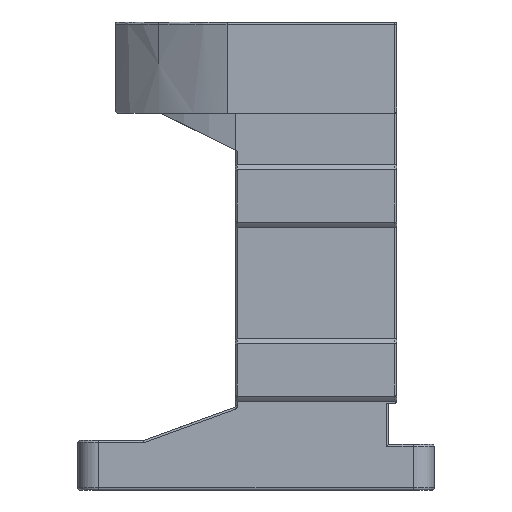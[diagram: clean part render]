
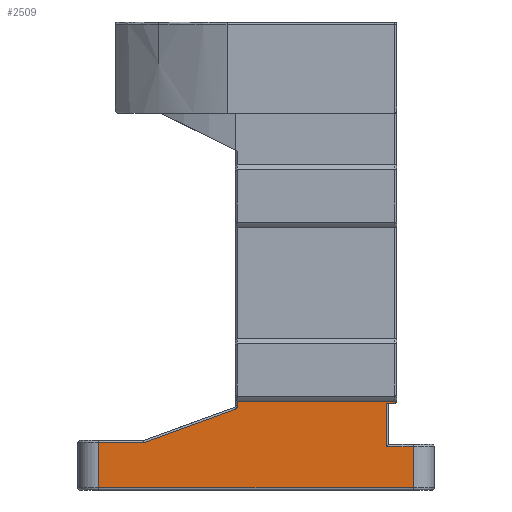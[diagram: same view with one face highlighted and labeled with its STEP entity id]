
A CAD part, left-side view. The second image highlights one B-rep face of the part: STEP entity #2509.
In plain terms, the highlighted planar face has unit normal (-1, 0, 0).
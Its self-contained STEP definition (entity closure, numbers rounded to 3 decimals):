
#53 = EDGE_CURVE ( 'NONE', #5532, #8242, #5767, .T. ) ;
#73 = EDGE_CURVE ( 'NONE', #8242, #8100, #3877, .T. ) ;
#167 = VERTEX_POINT ( 'NONE', #8229 ) ;
#216 = VECTOR ( 'NONE', #2805, 1000. ) ;
#329 = AXIS2_PLACEMENT_3D ( 'NONE', #4273, #4165, #6064 ) ;
#626 = CARTESIAN_POINT ( 'NONE',  ( -43., 38., 5.5 ) ) ;
#703 = CARTESIAN_POINT ( 'NONE',  ( -43., 4.5, 15.45 ) ) ;
#803 = LINE ( 'NONE', #5701, #7469 ) ;
#931 = VECTOR ( 'NONE', #6927, 1000. ) ;
#1178 = CARTESIAN_POINT ( 'NONE',  ( -43., 27.088, 6.5 ) ) ;
#1190 = CARTESIAN_POINT ( 'NONE',  ( -43., 38., -5.5 ) ) ;
#1194 = VERTEX_POINT ( 'NONE', #3346 ) ;
#1238 = DIRECTION ( 'NONE',  ( 0., -1., 0. ) ) ;
#1256 = VECTOR ( 'NONE', #1547, 1000. ) ;
#1276 = CARTESIAN_POINT ( 'NONE',  ( -43., -31.5, 15. ) ) ;
#1434 = LINE ( 'NONE', #626, #6427 ) ;
#1475 = ORIENTED_EDGE ( 'NONE', *, *, #6315, .T. ) ;
#1547 = DIRECTION ( 'NONE',  ( 0., 0., -1. ) ) ;
#1559 = LINE ( 'NONE', #8209, #3128 ) ;
#1635 = VECTOR ( 'NONE', #7709, 1000. ) ;
#1687 = VERTEX_POINT ( 'NONE', #7514 ) ;
#1761 = CARTESIAN_POINT ( 'NONE',  ( -43., 5.5, 14.35 ) ) ;
#1780 = VERTEX_POINT ( 'NONE', #7693 ) ;
#1834 = DIRECTION ( 'NONE',  ( 0., 1., 0. ) ) ;
#2053 = CIRCLE ( 'NONE', #2847, 1. ) ;
#2430 = DIRECTION ( 'NONE',  ( 0., 1., 0. ) ) ;
#2477 = CARTESIAN_POINT ( 'NONE',  ( -43., 4.5, 6. ) ) ;
#2509 = ADVANCED_FACE ( 'NONE', ( #7831 ), #5535, .F. ) ;
#2786 = CIRCLE ( 'NONE', #6058, 1. ) ;
#2793 = CARTESIAN_POINT ( 'NONE',  ( -43., -33.5, 15.45 ) ) ;
#2805 = DIRECTION ( 'NONE',  ( 0., -1., 0. ) ) ;
#2847 = AXIS2_PLACEMENT_3D ( 'NONE', #1178, #5768, #1834 ) ;
#3107 = CARTESIAN_POINT ( 'NONE',  ( -43., 38., 6. ) ) ;
#3128 = VECTOR ( 'NONE', #4499, 1000. ) ;
#3167 = ORIENTED_EDGE ( 'NONE', *, *, #8127, .T. ) ;
#3195 = ORIENTED_EDGE ( 'NONE', *, *, #5757, .T. ) ;
#3209 = LINE ( 'NONE', #7071, #4570 ) ;
#3346 = CARTESIAN_POINT ( 'NONE',  ( -43., -33.5, 15. ) ) ;
#3353 = CARTESIAN_POINT ( 'NONE',  ( -43., -31.5, 6. ) ) ;
#3435 = LINE ( 'NONE', #7086, #1635 ) ;
#3531 = DIRECTION ( 'NONE',  ( 0., 0., 1. ) ) ;
#3571 = DIRECTION ( 'NONE',  ( 0., 1., 0. ) ) ;
#3650 = LINE ( 'NONE', #7653, #5187 ) ;
#3877 = LINE ( 'NONE', #3353, #7211 ) ;
#3984 = DIRECTION ( 'NONE',  ( 0., 1., 0. ) ) ;
#4105 = VECTOR ( 'NONE', #3571, 1000. ) ;
#4107 = CARTESIAN_POINT ( 'NONE',  ( -43., 43., 4.5 ) ) ;
#4165 = DIRECTION ( 'NONE',  ( 1., 0., 0. ) ) ;
#4273 = CARTESIAN_POINT ( 'NONE',  ( -43., 43., 6. ) ) ;
#4431 = CARTESIAN_POINT ( 'NONE',  ( -43., 26.746, 5.56 ) ) ;
#4499 = DIRECTION ( 'NONE',  ( 0., 1., 0. ) ) ;
#4520 = CARTESIAN_POINT ( 'NONE',  ( -43., 27.088, 5.5 ) ) ;
#4566 = VERTEX_POINT ( 'NONE', #703 ) ;
#4570 = VECTOR ( 'NONE', #4608, 1000. ) ;
#4589 = ORIENTED_EDGE ( 'NONE', *, *, #6940, .T. ) ;
#4608 = DIRECTION ( 'NONE',  ( 0., 0.94, -0.342 ) ) ;
#4703 = VERTEX_POINT ( 'NONE', #1190 ) ;
#4974 = EDGE_CURVE ( 'NONE', #8100, #1194, #6928, .T. ) ;
#5117 = ORIENTED_EDGE ( 'NONE', *, *, #8134, .T. ) ;
#5187 = VECTOR ( 'NONE', #1238, 1000. ) ;
#5260 = ORIENTED_EDGE ( 'NONE', *, *, #8085, .T. ) ;
#5365 = VERTEX_POINT ( 'NONE', #4520 ) ;
#5388 = ORIENTED_EDGE ( 'NONE', *, *, #4974, .T. ) ;
#5532 = VERTEX_POINT ( 'NONE', #7795 ) ;
#5535 = PLANE ( 'NONE',  #329 ) ;
#5639 = CARTESIAN_POINT ( 'NONE',  ( -43., -32., 15. ) ) ;
#5671 = VERTEX_POINT ( 'NONE', #4431 ) ;
#5701 = CARTESIAN_POINT ( 'NONE',  ( -43., -33.5, 6. ) ) ;
#5757 = EDGE_CURVE ( 'NONE', #4566, #1687, #7906, .T. ) ;
#5767 = LINE ( 'NONE', #4107, #4105 ) ;
#5768 = DIRECTION ( 'NONE',  ( 1., 0., 0. ) ) ;
#5870 = EDGE_CURVE ( 'NONE', #6057, #4566, #1559, .T. ) ;
#5934 = EDGE_LOOP ( 'NONE', ( #6272, #7557, #1475, #4589, #6719, #6726, #7844, #5388, #5117, #6130, #3195, #3167, #5260 ) ) ;
#6057 = VERTEX_POINT ( 'NONE', #2793 ) ;
#6058 = AXIS2_PLACEMENT_3D ( 'NONE', #1761, #6325, #2430 ) ;
#6064 = DIRECTION ( 'NONE',  ( 0., 1., 0. ) ) ;
#6130 = ORIENTED_EDGE ( 'NONE', *, *, #5870, .T. ) ;
#6272 = ORIENTED_EDGE ( 'NONE', *, *, #6892, .T. ) ;
#6315 = EDGE_CURVE ( 'NONE', #7638, #4703, #7786, .T. ) ;
#6325 = DIRECTION ( 'NONE',  ( 1., 0., 0. ) ) ;
#6427 = VECTOR ( 'NONE', #3984, 1000. ) ;
#6655 = CARTESIAN_POINT ( 'NONE',  ( -43., 38., 5.5 ) ) ;
#6719 = ORIENTED_EDGE ( 'NONE', *, *, #6978, .T. ) ;
#6726 = ORIENTED_EDGE ( 'NONE', *, *, #53, .T. ) ;
#6892 = EDGE_CURVE ( 'NONE', #5671, #5365, #2053, .T. ) ;
#6927 = DIRECTION ( 'NONE',  ( 0., 0., -1. ) ) ;
#6928 = LINE ( 'NONE', #5639, #216 ) ;
#6940 = EDGE_CURVE ( 'NONE', #4703, #1780, #3650, .T. ) ;
#6944 = DIRECTION ( 'NONE',  ( 0., 0., 1. ) ) ;
#6978 = EDGE_CURVE ( 'NONE', #1780, #5532, #3435, .T. ) ;
#6986 = EDGE_CURVE ( 'NONE', #5365, #7638, #1434, .T. ) ;
#7071 = CARTESIAN_POINT ( 'NONE',  ( -43., 26.746, 5.56 ) ) ;
#7086 = CARTESIAN_POINT ( 'NONE',  ( -43., -38., 6. ) ) ;
#7211 = VECTOR ( 'NONE', #3531, 1000. ) ;
#7469 = VECTOR ( 'NONE', #6944, 1000. ) ;
#7514 = CARTESIAN_POINT ( 'NONE',  ( -43., 4.5, 14.35 ) ) ;
#7557 = ORIENTED_EDGE ( 'NONE', *, *, #6986, .T. ) ;
#7638 = VERTEX_POINT ( 'NONE', #6655 ) ;
#7646 = CARTESIAN_POINT ( 'NONE',  ( -43., -31.5, 4.5 ) ) ;
#7653 = CARTESIAN_POINT ( 'NONE',  ( -43., 43., -5.5 ) ) ;
#7693 = CARTESIAN_POINT ( 'NONE',  ( -43., -38., -5.5 ) ) ;
#7709 = DIRECTION ( 'NONE',  ( 0., 0., 1. ) ) ;
#7786 = LINE ( 'NONE', #3107, #931 ) ;
#7795 = CARTESIAN_POINT ( 'NONE',  ( -43., -38., 4.5 ) ) ;
#7831 = FACE_OUTER_BOUND ( 'NONE', #5934, .T. ) ;
#7844 = ORIENTED_EDGE ( 'NONE', *, *, #73, .T. ) ;
#7906 = LINE ( 'NONE', #2477, #1256 ) ;
#8085 = EDGE_CURVE ( 'NONE', #167, #5671, #3209, .T. ) ;
#8100 = VERTEX_POINT ( 'NONE', #1276 ) ;
#8127 = EDGE_CURVE ( 'NONE', #1687, #167, #2786, .T. ) ;
#8134 = EDGE_CURVE ( 'NONE', #1194, #6057, #803, .T. ) ;
#8209 = CARTESIAN_POINT ( 'NONE',  ( -43., -43., 15.45 ) ) ;
#8229 = CARTESIAN_POINT ( 'NONE',  ( -43., 5.158, 13.41 ) ) ;
#8242 = VERTEX_POINT ( 'NONE', #7646 ) ;
